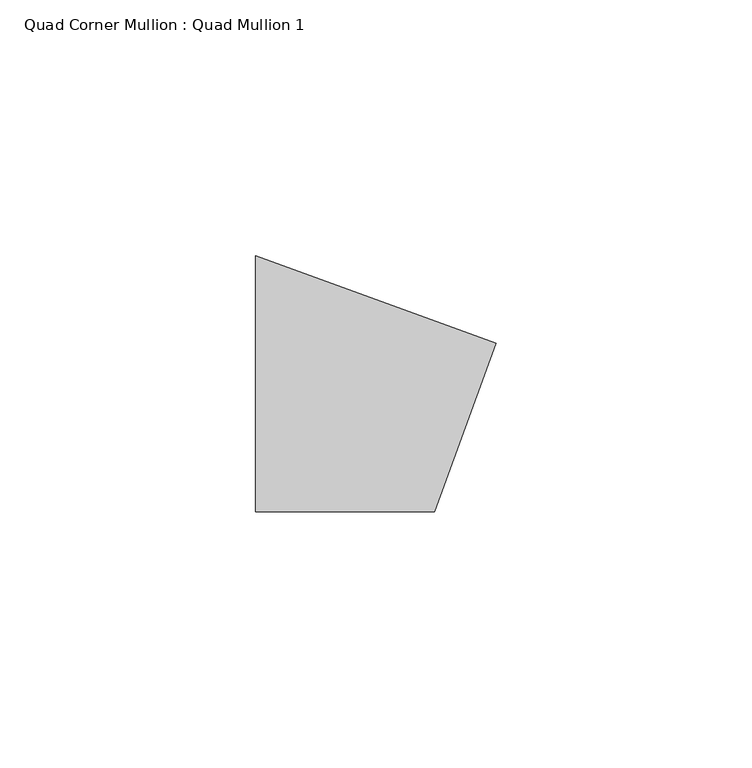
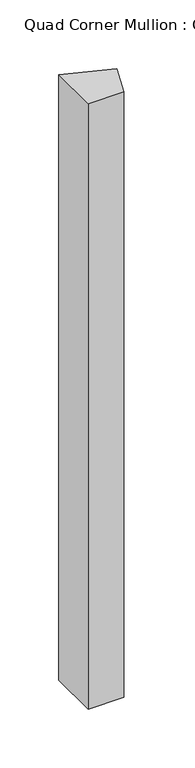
"""IFC4 building model written with IfcOpenShell, lengths in millimetres: member geometry, Quad Corner Mullion : Quad Mullion 1."""

from ifc_helpers import new_model, si_unit, frame, origin, place, context, project, spatial, polyline, outline, extrude, source, transform, mapped, element, save


def quad_corner_mullion_quad_mullion_1_4206f2de(model_context):
    return source(origin(), model_context, "Body", "SweptSolid", [
        extrude(outline(polyline([(29.4794426, 7.8989928), (17.5051885, -25.0), (-17.5051885, -25.0), (-17.5051885, 25.0), (29.4794426, 7.8989928)])), frame((0.0, 0.0, -628.9476846), z_axis=(0.0, 0.0, 1.0), x_axis=(1.0, 0.0, 0.0)), (0.0, 0.0, 1.0), 628.9476846),
    ])


if __name__ == "__main__":
    model = new_model("IFC4")
    model_context = context("Model", 3, world=origin())
    ifc_project = project(units=[si_unit("LENGTHUNIT", "METRE", prefix="MILLI")], contexts=[model_context])
    site = spatial("IfcSite", under=ifc_project)
    building = spatial("IfcBuilding", under=site)
    placement = place(None, origin())
    quad_corner_mullion_quad_mullion_1_shape = quad_corner_mullion_quad_mullion_1_4206f2de(model_context)
    element("IfcMember", 1, ObjectType="Quad Corner Mullion : Quad Mullion 1", at=placement, inside=building, context=model_context, shape_type="MappedRepresentation", body=[
        mapped(quad_corner_mullion_quad_mullion_1_shape, transform((0.0, 0.0, 0.0), x_axis=(1.0, 0.0, 0.0), y_axis=(0.0, 1.0, 0.0), z_axis=(0.0, 0.0, 1.0))),
    ])
    save(model, "model.ifc")
